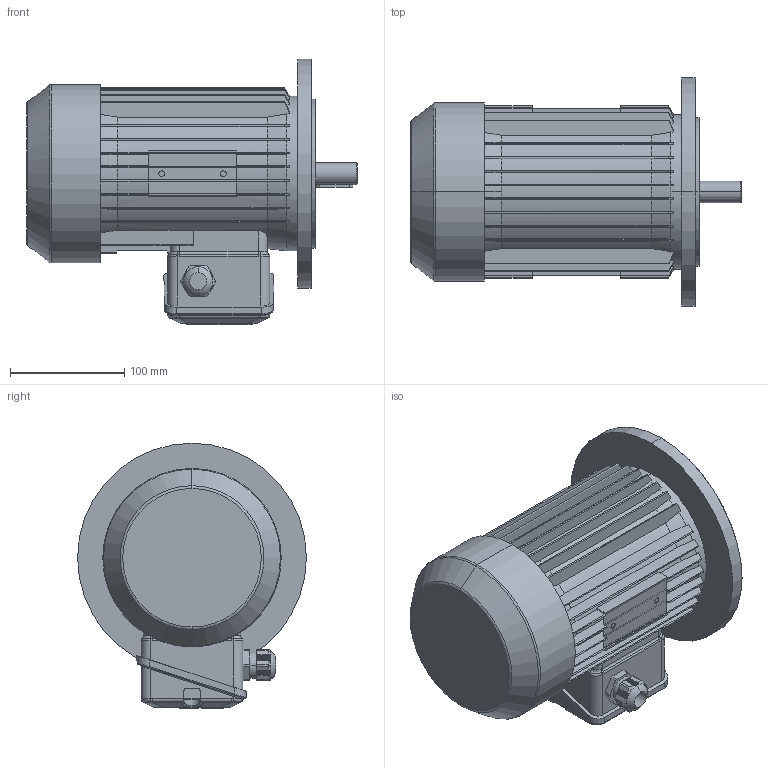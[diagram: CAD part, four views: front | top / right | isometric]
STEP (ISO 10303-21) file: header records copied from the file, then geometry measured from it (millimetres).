
FILE_DESCRIPTION (( 'STEP AP214' ), '1' );
FILE_NAME ('MAP80M2A IM3041 A200 FF165.STEP', '2020-12-18T10:52:02', ( '' ), ( '' ), 'SwSTEP 2.0', 'SolidWorks 2018', '' );
FILE_SCHEMA (( 'AUTOMOTIVE_DESIGN' ));
Length unit declared in the file: millimetre
Products named in the file (1): MAP80M2A IM3041 A200 FF165
Bounding box: 289 x 200 x 232 mm (x, y, z)
Volume: 4408878.6 mm3; surface area: 326584.5 mm2
Topology: 3 solids, 8 shells, 1151 faces, 2995 edges, 1891 vertices
Faces by surface type: plane 546, cylinder 296, bspline 148, cone 136, torus 23, sphere 2
Entity records: 43629 total; most frequent: CARTESIAN_POINT 17118, ORIENTED_EDGE 5970, DIRECTION 4901, EDGE_CURVE 2985, VERTEX_POINT 1891, AXIS2_PLACEMENT_3D 1656, LINE 1589, VECTOR 1589
